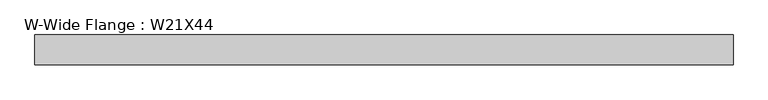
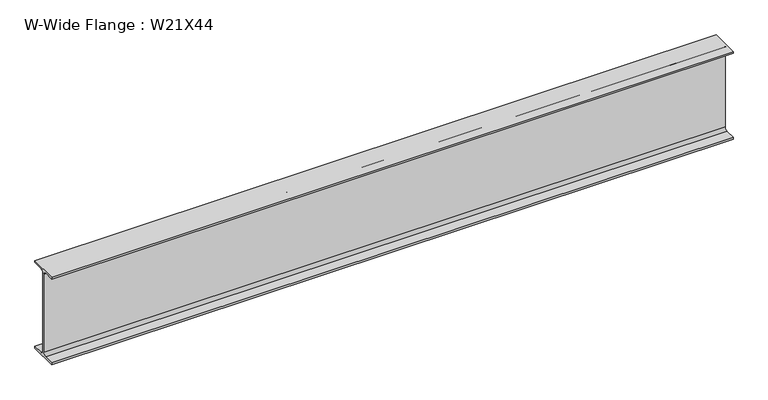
"""IFC4 building model written with IfcOpenShell, lengths in millimetres: beam geometry, W-Wide Flange : W21X44."""

from ifc_helpers import new_model, si_unit, point, frame, frame_2d, origin, place, context, project, spatial, polyline, circle_curve, trimmed, segment, composite_curve, outline, extrude, source, transform, mapped, element, save


def w_wide_flange_w21x44_b9bda158(model_context):
    return source(origin(), model_context, "Body", "SweptSolid", [
        extrude(outline(composite_curve([segment(polyline([(82.55, -251.46), (82.55, -262.89), (-82.55, -262.89), (-82.55, -251.46), (-21.59, -251.46)]), True, "CONTINUOUS"), segment(trimmed(circle_curve(frame_2d((-21.59, -234.315)), 17.145), [point((-21.59, -251.46))], [point((-4.445, -234.315))], True, "CARTESIAN"), True, "CONTINUOUS"), segment(polyline([(-4.445, -234.315), (-4.445, 234.315)]), True, "CONTINUOUS"), segment(trimmed(circle_curve(frame_2d((-21.59, 234.315)), 17.145), [point((-4.445, 234.315))], [point((-21.59, 251.46))], True, "CARTESIAN"), True, "CONTINUOUS"), segment(polyline([(-21.59, 251.46), (-82.55, 251.46), (-82.55, 262.89), (82.55, 262.89), (82.55, 251.46), (21.59, 251.46)]), True, "CONTINUOUS"), segment(trimmed(circle_curve(frame_2d((21.59, 234.315)), 17.145), [point((21.59, 251.46))], [point((4.445, 234.315))], True, "CARTESIAN"), True, "CONTINUOUS"), segment(polyline([(4.445, 234.315), (4.445, -234.315)]), True, "CONTINUOUS"), segment(trimmed(circle_curve(frame_2d((21.59, -234.315)), 17.145), [point((4.445, -234.315))], [point((21.59, -251.46))], True, "CARTESIAN"), True, "CONTINUOUS"), segment(polyline([(21.59, -251.46), (82.55, -251.46)]), True, "CONTINUOUS")], self_intersect=False)), frame((-1935.665346, 0.0, 0.0), z_axis=(1.0, 0.0, 0.0), x_axis=(0.0, 1.0, 0.0)), (0.0, 0.0, 1.0), 3868.155692),
    ])


if __name__ == "__main__":
    model = new_model("IFC4")
    model_context = context("Model", 3, world=origin())
    ifc_project = project(units=[si_unit("LENGTHUNIT", "METRE", prefix="MILLI")], contexts=[model_context])
    site = spatial("IfcSite", under=ifc_project)
    building = spatial("IfcBuilding", under=site)
    placement = place(None, origin())
    w_wide_flange_w21x44_shape = w_wide_flange_w21x44_b9bda158(model_context)
    element("IfcBeam", 1, ObjectType="W-Wide Flange : W21X44", at=placement, inside=building, context=model_context, shape_type="MappedRepresentation", body=[
        mapped(w_wide_flange_w21x44_shape, transform((0.0, 0.0, 0.0), x_axis=(1.0, 0.0, 0.0), y_axis=(0.0, 1.0, 0.0), z_axis=(0.0, 0.0, 1.0))),
    ])
    save(model, "model.ifc")
